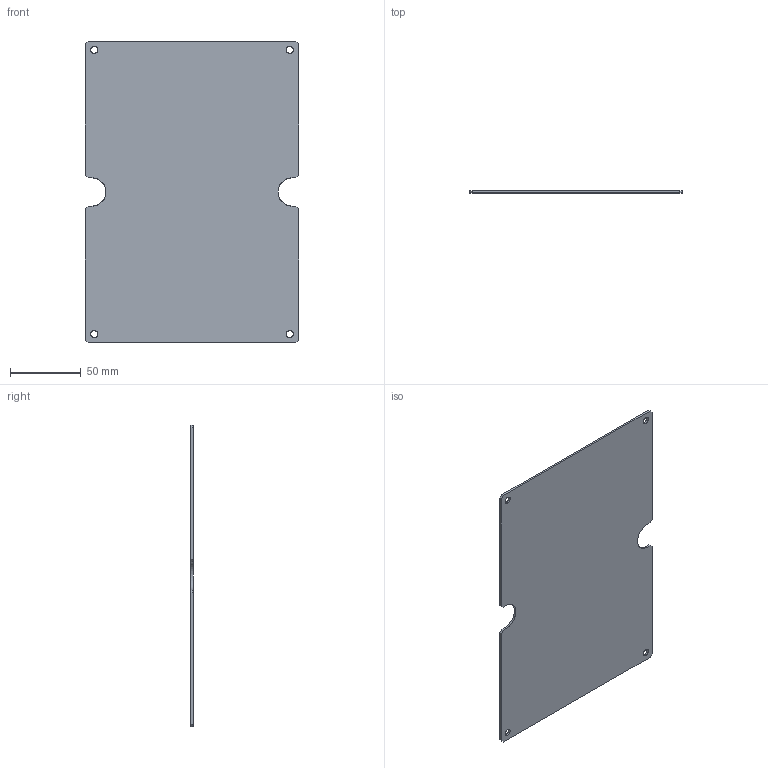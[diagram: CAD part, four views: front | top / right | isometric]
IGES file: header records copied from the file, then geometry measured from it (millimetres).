
Start section: SolidWorks IGES file using analytic representation for surfaces
Global section: file name: G:\3DRAW\EURONORD\3DCAM\Plastic\Asennuslevyt\TM 1624.IGS; native system: SolidWorks 2009; preprocessor: SolidWorks 2009; author: KennethW; date: 100217.142156; units: millimetre
Bounding box: 151 x 1.5 x 214 mm (x, y, z)
Surface area: 64687 mm2 (no closed solid volume)
Topology: 0 solids, 0 shells, 30 faces, 468 edges, 468 vertices
Faces by surface type: bspline 20, revolution 10
